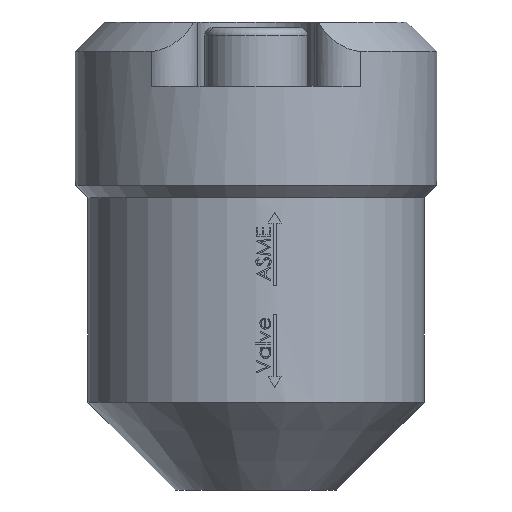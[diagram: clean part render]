
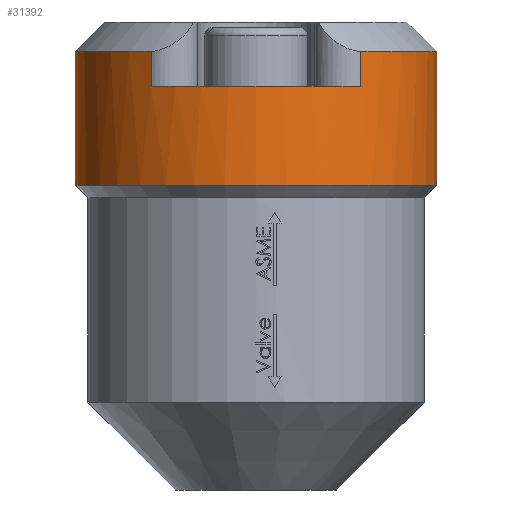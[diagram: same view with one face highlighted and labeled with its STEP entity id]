
A CAD part, front view. The second image highlights one B-rep face of the part: STEP entity #31392.
In plain terms, the highlighted cylindrical face has radius 12.35 mm (diameter 24.7 mm), a partial arc.
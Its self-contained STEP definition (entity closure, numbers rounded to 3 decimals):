
#281 = AXIS2_PLACEMENT_3D ( 'NONE', #13023, #28378, #10110 ) ;
#436 = DIRECTION ( 'NONE',  ( 0., 0., -1. ) ) ;
#794 = VECTOR ( 'NONE', #4344, 1000. ) ;
#1292 = LINE ( 'NONE', #30320, #794 ) ;
#1303 = ORIENTED_EDGE ( 'NONE', *, *, #9809, .T. ) ;
#2496 = CIRCLE ( 'NONE', #29230, 12.35 ) ;
#2704 = LINE ( 'NONE', #23536, #7848 ) ;
#3014 = FACE_OUTER_BOUND ( 'NONE', #16158, .T. ) ;
#3215 = VERTEX_POINT ( 'NONE', #27545 ) ;
#3299 = CARTESIAN_POINT ( 'NONE',  ( -7.159, -10.063, 7.6 ) ) ;
#3435 = AXIS2_PLACEMENT_3D ( 'NONE', #6926, #25689, #17349 ) ;
#3644 = DIRECTION ( 'NONE',  ( 0., 0., 1. ) ) ;
#3820 = VERTEX_POINT ( 'NONE', #22795 ) ;
#3844 = EDGE_CURVE ( 'NONE', #29079, #11939, #9409, .T. ) ;
#4211 = EDGE_CURVE ( 'NONE', #11939, #19007, #31031, .T. ) ;
#4344 = DIRECTION ( 'NONE',  ( 0., 0., -1. ) ) ;
#5577 = CYLINDRICAL_SURFACE ( 'NONE', #10544, 12.35 ) ;
#5890 = CARTESIAN_POINT ( 'NONE',  ( 0., 0., 0.85 ) ) ;
#6926 = CARTESIAN_POINT ( 'NONE',  ( 0., 0., 10. ) ) ;
#7848 = VECTOR ( 'NONE', #17563, 1000. ) ;
#8737 = CARTESIAN_POINT ( 'NONE',  ( -12.35, 0., 10. ) ) ;
#9050 = DIRECTION ( 'NONE',  ( 1., 0., 0. ) ) ;
#9409 = CIRCLE ( 'NONE', #3435, 12.35 ) ;
#9443 = VERTEX_POINT ( 'NONE', #29722 ) ;
#9809 = EDGE_CURVE ( 'NONE', #18567, #29079, #2704, .T. ) ;
#10110 = DIRECTION ( 'NONE',  ( -1., 0., 0. ) ) ;
#10514 = DIRECTION ( 'NONE',  ( -1., 0., 0. ) ) ;
#10544 = AXIS2_PLACEMENT_3D ( 'NONE', #18387, #436, #10514 ) ;
#11531 = EDGE_CURVE ( 'NONE', #19007, #9443, #19883, .T. ) ;
#11699 = AXIS2_PLACEMENT_3D ( 'NONE', #5890, #3644, #27201 ) ;
#11939 = VERTEX_POINT ( 'NONE', #8737 ) ;
#12067 = CARTESIAN_POINT ( 'NONE',  ( 7.159, -10.063, 12. ) ) ;
#12677 = EDGE_CURVE ( 'NONE', #19275, #18567, #21556, .T. ) ;
#13023 = CARTESIAN_POINT ( 'NONE',  ( 0., 0., 7.6 ) ) ;
#13855 = DIRECTION ( 'NONE',  ( 0., 0., -1. ) ) ;
#15155 = CARTESIAN_POINT ( 'NONE',  ( -12.35, 0., 12. ) ) ;
#15695 = ORIENTED_EDGE ( 'NONE', *, *, #11531, .T. ) ;
#16145 = EDGE_CURVE ( 'NONE', #3820, #9443, #1292, .T. ) ;
#16158 = EDGE_LOOP ( 'NONE', ( #23238, #25705, #33607, #16356, #1303, #32034, #21921, #15695 ) ) ;
#16356 = ORIENTED_EDGE ( 'NONE', *, *, #12677, .T. ) ;
#16879 = DIRECTION ( 'NONE',  ( 0., 0., -1. ) ) ;
#17349 = DIRECTION ( 'NONE',  ( 1., 0., 0. ) ) ;
#17563 = DIRECTION ( 'NONE',  ( 0., 0., 1. ) ) ;
#18387 = CARTESIAN_POINT ( 'NONE',  ( 0., 0., 12. ) ) ;
#18472 = CARTESIAN_POINT ( 'NONE',  ( -7.159, -10.063, 10. ) ) ;
#18567 = VERTEX_POINT ( 'NONE', #3299 ) ;
#18959 = EDGE_CURVE ( 'NONE', #3820, #3215, #2496, .T. ) ;
#19007 = VERTEX_POINT ( 'NONE', #32121 ) ;
#19275 = VERTEX_POINT ( 'NONE', #27110 ) ;
#19883 = CIRCLE ( 'NONE', #11699, 12.35 ) ;
#20069 = EDGE_CURVE ( 'NONE', #3215, #19275, #24708, .T. ) ;
#21556 = CIRCLE ( 'NONE', #281, 12.35 ) ;
#21921 = ORIENTED_EDGE ( 'NONE', *, *, #4211, .T. ) ;
#22795 = CARTESIAN_POINT ( 'NONE',  ( 12.35, 0., 10. ) ) ;
#23238 = ORIENTED_EDGE ( 'NONE', *, *, #16145, .F. ) ;
#23536 = CARTESIAN_POINT ( 'NONE',  ( -7.159, -10.063, 12. ) ) ;
#24157 = VECTOR ( 'NONE', #27946, 1000. ) ;
#24708 = LINE ( 'NONE', #12067, #25373 ) ;
#25373 = VECTOR ( 'NONE', #16879, 1000. ) ;
#25689 = DIRECTION ( 'NONE',  ( 0., 0., -1. ) ) ;
#25705 = ORIENTED_EDGE ( 'NONE', *, *, #18959, .T. ) ;
#27110 = CARTESIAN_POINT ( 'NONE',  ( 7.159, -10.063, 7.6 ) ) ;
#27152 = CARTESIAN_POINT ( 'NONE',  ( 0., 0., 10. ) ) ;
#27201 = DIRECTION ( 'NONE',  ( 1., 0., 0. ) ) ;
#27545 = CARTESIAN_POINT ( 'NONE',  ( 7.159, -10.063, 10. ) ) ;
#27946 = DIRECTION ( 'NONE',  ( 0., 0., -1. ) ) ;
#28378 = DIRECTION ( 'NONE',  ( 0., 0., -1. ) ) ;
#29079 = VERTEX_POINT ( 'NONE', #18472 ) ;
#29230 = AXIS2_PLACEMENT_3D ( 'NONE', #27152, #13855, #9050 ) ;
#29722 = CARTESIAN_POINT ( 'NONE',  ( 12.35, 0., 0.85 ) ) ;
#30320 = CARTESIAN_POINT ( 'NONE',  ( 12.35, 0., 12. ) ) ;
#31031 = LINE ( 'NONE', #15155, #24157 ) ;
#31392 = ADVANCED_FACE ( 'NONE', ( #3014 ), #5577, .T. ) ;
#32034 = ORIENTED_EDGE ( 'NONE', *, *, #3844, .T. ) ;
#32121 = CARTESIAN_POINT ( 'NONE',  ( -12.35, 0., 0.85 ) ) ;
#33607 = ORIENTED_EDGE ( 'NONE', *, *, #20069, .T. ) ;
